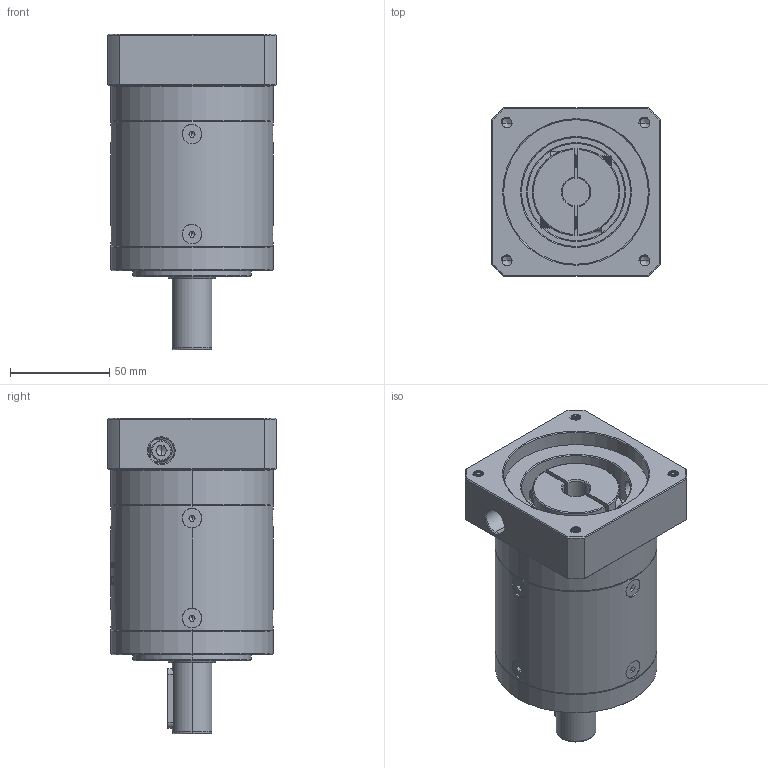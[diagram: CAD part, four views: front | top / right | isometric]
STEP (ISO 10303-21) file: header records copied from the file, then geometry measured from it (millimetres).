
FILE_DESCRIPTION (( 'STEP AP214' ), '1' );
FILE_NAME ('ZE80-D20-L2-14-73-69.5X69.5-M6.step', '2022-05-08T05:51:06', ( '' ), ( 'Microsoft' ), 'SwSTEP 2.0', 'SolidWorks 2016', '' );
FILE_SCHEMA (( 'AUTOMOTIVE_DESIGN' ));
Length unit declared in the file: millimetre
Products named in the file (1): ZE80-D20-L2-14-73-69.5X69.5-M6
Bounding box: 85 x 85 x 159.5 mm (x, y, z)
Volume: 620404.4 mm3; surface area: 90438.7 mm2
Topology: 13 solids, 13 shells, 2065 faces, 5379 edges, 3403 vertices
Faces by surface type: plane 891, cylinder 500, bspline 332, cone 325, torus 17
Entity records: 118404 total; most frequent: CARTESIAN_POINT 49405, ORIENTED_EDGE 10682, DIRECTION 8207, EDGE_CURVE 5341, VERTEX_POINT 3403, VECTOR 2859, LINE 2859, AXIS2_PLACEMENT_3D 2674
